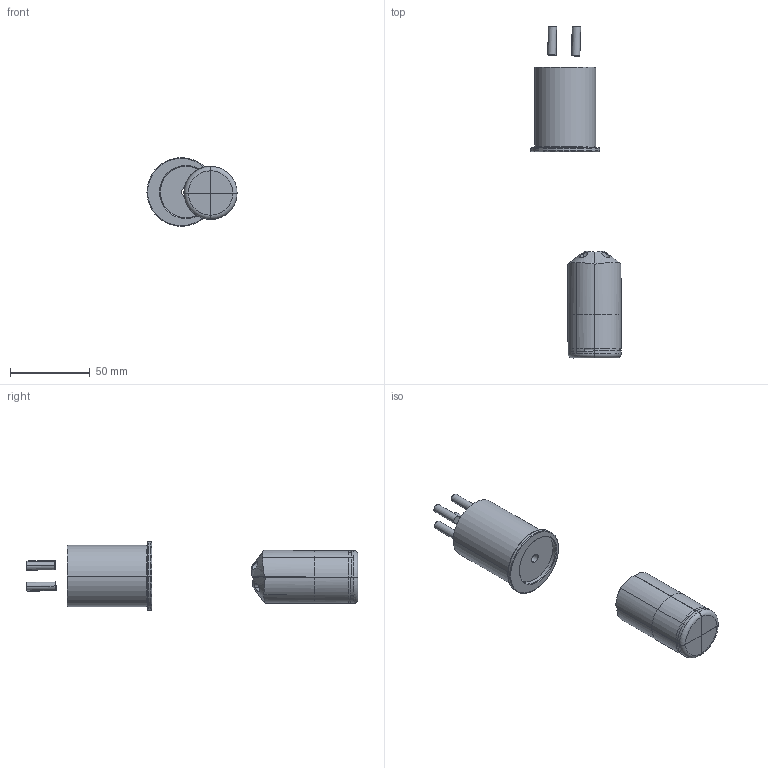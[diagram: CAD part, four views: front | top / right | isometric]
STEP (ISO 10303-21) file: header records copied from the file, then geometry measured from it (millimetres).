
FILE_DESCRIPTION(('STEP AP203'),'1');
FILE_NAME('37mm net round v1.5 extended.step','2021-07-02T20:33:18',(' '),(' '),'Spatial InterOp 3D',' ',' ');
FILE_SCHEMA(('CONFIG_CONTROL_DESIGN'));
Length unit declared in the file: metre
Products named in the file (11): Case _3c_1_3e_; Case (1); 37mm net round v1.5 extended; 5mm x 17mm Rods; 5mm x 17mm Rods-0; in shell; 5mm x 17mm Rods-1; in shell-2; 5mm x 17mm Rods-3; in shell-4; in shell3
Assembly tree (10 placements, depth 3):
  37mm net round v1.5 extended
    Case _3c_1_3e_
      Case (1)
    5mm x 17mm Rods
    5mm x 17mm Rods-0
    in shell
    5mm x 17mm Rods-1
    in shell-2
    5mm x 17mm Rods-3
    in shell-4
    in shell3
Bounding box: 56.33 x 207.5 x 42.93 mm (x, y, z)
Volume: 67702.5 mm3; surface area: 31778.2 mm2
Topology: 9 solids, 9 shells, 173 faces, 439 edges, 293 vertices
Faces by surface type: cylinder 75, plane 67, bspline 14, torus 13, cone 4
Entity records: 7974 total; most frequent: CARTESIAN_POINT 3163, DIRECTION 929, ORIENTED_EDGE 878, EDGE_CURVE 439, AXIS2_PLACEMENT_3D 378, VERTEX_POINT 293, EDGE_LOOP 196, ADVANCED_FACE 173
